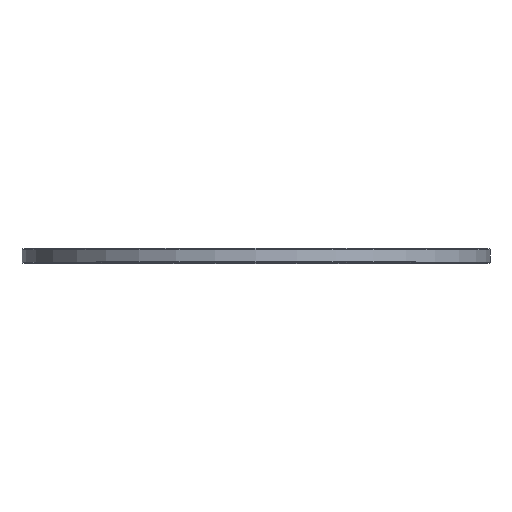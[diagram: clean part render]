
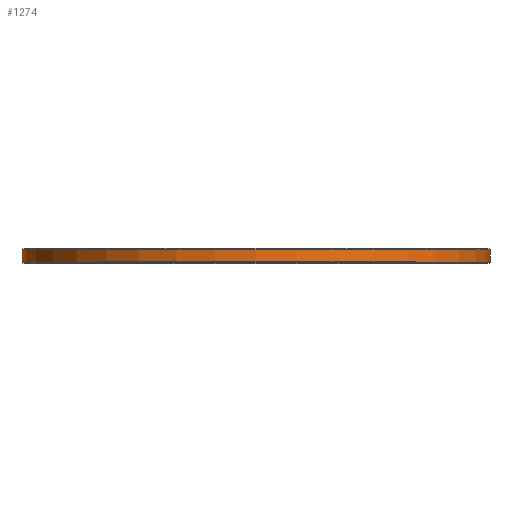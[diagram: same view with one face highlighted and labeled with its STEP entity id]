
A CAD part, top view. The second image highlights one B-rep face of the part: STEP entity #1274.
In plain terms, the highlighted cylindrical face has radius 557.5 mm (diameter 1115 mm), a full revolution.
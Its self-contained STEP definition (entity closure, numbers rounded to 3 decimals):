
#246=ORIENTED_EDGE('',*,*,#432,.T.);
#247=ORIENTED_EDGE('',*,*,#433,.T.);
#432=EDGE_CURVE('',#552,#552,#672,.F.);
#433=EDGE_CURVE('',#553,#553,#673,.T.);
#552=VERTEX_POINT('',#2240);
#553=VERTEX_POINT('',#2242);
#672=CIRCLE('',#1490,557.5);
#673=CIRCLE('',#1491,557.5);
#846=EDGE_LOOP('',(#246));
#847=EDGE_LOOP('',(#247));
#1086=FACE_BOUND('',#846,.T.);
#1087=FACE_BOUND('',#847,.T.);
#1190=CYLINDRICAL_SURFACE('',#1489,557.5);
#1274=ADVANCED_FACE('',(#1086,#1087),#1190,.T.);
#1489=AXIS2_PLACEMENT_3D('',#2238,#1895,#1896);
#1490=AXIS2_PLACEMENT_3D('',#2239,#1897,#1898);
#1491=AXIS2_PLACEMENT_3D('',#2241,#1899,#1900);
#1895=DIRECTION('',(0.,-1.,0.));
#1896=DIRECTION('',(0.,0.,-1.));
#1897=DIRECTION('',(0.,1.,0.));
#1898=DIRECTION('',(0.,0.,1.));
#1899=DIRECTION('',(0.,1.,0.));
#1900=DIRECTION('',(0.,0.,1.));
#2238=CARTESIAN_POINT('',(0.,34.,0.));
#2239=CARTESIAN_POINT('',(0.,32.,0.));
#2240=CARTESIAN_POINT('',(0.,32.,557.5));
#2241=CARTESIAN_POINT('',(0.,2.,0.));
#2242=CARTESIAN_POINT('',(0.,2.,557.5));
